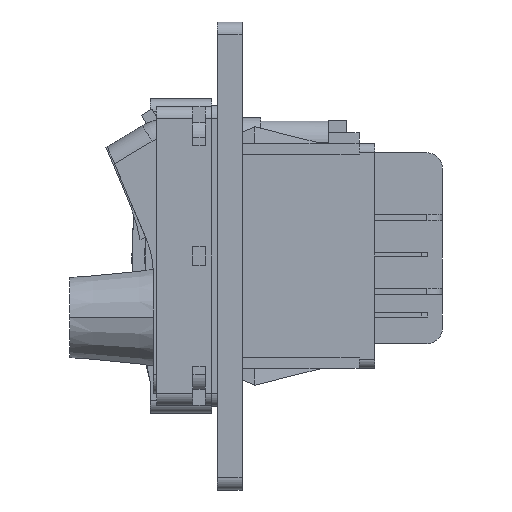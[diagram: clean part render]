
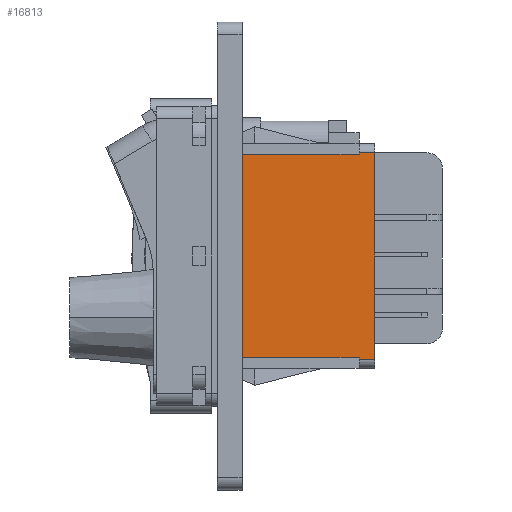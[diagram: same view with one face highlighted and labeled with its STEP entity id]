
A CAD part, left-side view. The second image highlights one B-rep face of the part: STEP entity #16813.
In plain terms, the highlighted planar face has unit normal (-1, 0, 0).
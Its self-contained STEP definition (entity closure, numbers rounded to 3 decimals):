
#4459=DIRECTION('',(0.,0.,-1.));
#4460=VECTOR('',#4459,33.);
#4461=CARTESIAN_POINT('',(-49.4,4.,16.5));
#4462=LINE('',#4461,#4460);
#4463=DIRECTION('',(0.,1.,0.));
#4464=VECTOR('',#4463,2.52);
#4465=CARTESIAN_POINT('',(-49.4,-21.52,16.75));
#4466=LINE('',#4465,#4464);
#4491=DIRECTION('',(0.,0.,1.));
#4492=VECTOR('',#4491,33.5);
#4493=CARTESIAN_POINT('',(-49.4,-21.52,-16.75));
#4494=LINE('',#4493,#4492);
#4508=DIRECTION('',(0.,0.,-1.));
#4509=VECTOR('',#4508,0.25);
#4510=CARTESIAN_POINT('',(-49.4,-19.,16.75));
#4511=LINE('',#4510,#4509);
#4516=DIRECTION('',(0.,1.,0.));
#4517=VECTOR('',#4516,23.);
#4518=CARTESIAN_POINT('',(-49.4,-19.,16.5));
#4519=LINE('',#4518,#4517);
#4757=DIRECTION('',(0.,-1.,0.));
#4758=VECTOR('',#4757,2.52);
#4759=CARTESIAN_POINT('',(-49.4,-19.,-16.75));
#4760=LINE('',#4759,#4758);
#4770=DIRECTION('',(0.,0.,1.));
#4771=VECTOR('',#4770,0.25);
#4772=CARTESIAN_POINT('',(-49.4,-19.,-16.75));
#4773=LINE('',#4772,#4771);
#5010=DIRECTION('',(0.,1.,0.));
#5011=VECTOR('',#5010,23.);
#5012=CARTESIAN_POINT('',(-49.4,-19.,-16.5));
#5013=LINE('',#5012,#5011);
#10057=CARTESIAN_POINT('',(-49.4,4.,16.5));
#10058=CARTESIAN_POINT('',(-49.4,4.,-16.5));
#10059=VERTEX_POINT('',#10057);
#10060=VERTEX_POINT('',#10058);
#10089=CARTESIAN_POINT('',(-49.4,-21.52,16.75));
#10090=CARTESIAN_POINT('',(-49.4,-19.,16.75));
#10091=VERTEX_POINT('',#10089);
#10092=VERTEX_POINT('',#10090);
#10093=CARTESIAN_POINT('',(-49.4,-21.52,-16.75));
#10094=VERTEX_POINT('',#10093);
#10095=CARTESIAN_POINT('',(-49.4,-19.,-16.75));
#10096=VERTEX_POINT('',#10095);
#10097=CARTESIAN_POINT('',(-49.4,-19.,-16.5));
#10098=VERTEX_POINT('',#10097);
#10099=CARTESIAN_POINT('',(-49.4,-19.,16.5));
#10100=VERTEX_POINT('',#10099);
#16791=CARTESIAN_POINT('',(-49.4,-8.76,0.));
#16792=DIRECTION('',(1.,0.,0.));
#16793=DIRECTION('',(0.,0.,1.));
#16794=AXIS2_PLACEMENT_3D('',#16791,#16792,#16793);
#16795=PLANE('',#16794);
#16797=ORIENTED_EDGE('',*,*,#16796,.F.);
#16799=ORIENTED_EDGE('',*,*,#16798,.F.);
#16801=ORIENTED_EDGE('',*,*,#16800,.F.);
#16803=ORIENTED_EDGE('',*,*,#16802,.T.);
#16805=ORIENTED_EDGE('',*,*,#16804,.T.);
#16806=ORIENTED_EDGE('',*,*,#16757,.F.);
#16808=ORIENTED_EDGE('',*,*,#16807,.F.);
#16810=ORIENTED_EDGE('',*,*,#16809,.F.);
#16811=EDGE_LOOP('',(#16797,#16799,#16801,#16803,#16805,#16806,#16808,#16810));
#16812=FACE_OUTER_BOUND('',#16811,.F.);
#16813=ADVANCED_FACE('',(#16812),#16795,.F.);
#16757=EDGE_CURVE('',#10059,#10060,#4462,.T.);
#16796=EDGE_CURVE('',#10091,#10092,#4466,.T.);
#16798=EDGE_CURVE('',#10094,#10091,#4494,.T.);
#16800=EDGE_CURVE('',#10096,#10094,#4760,.T.);
#16802=EDGE_CURVE('',#10096,#10098,#4773,.T.);
#16804=EDGE_CURVE('',#10098,#10060,#5013,.T.);
#16807=EDGE_CURVE('',#10100,#10059,#4519,.T.);
#16809=EDGE_CURVE('',#10092,#10100,#4511,.T.);
